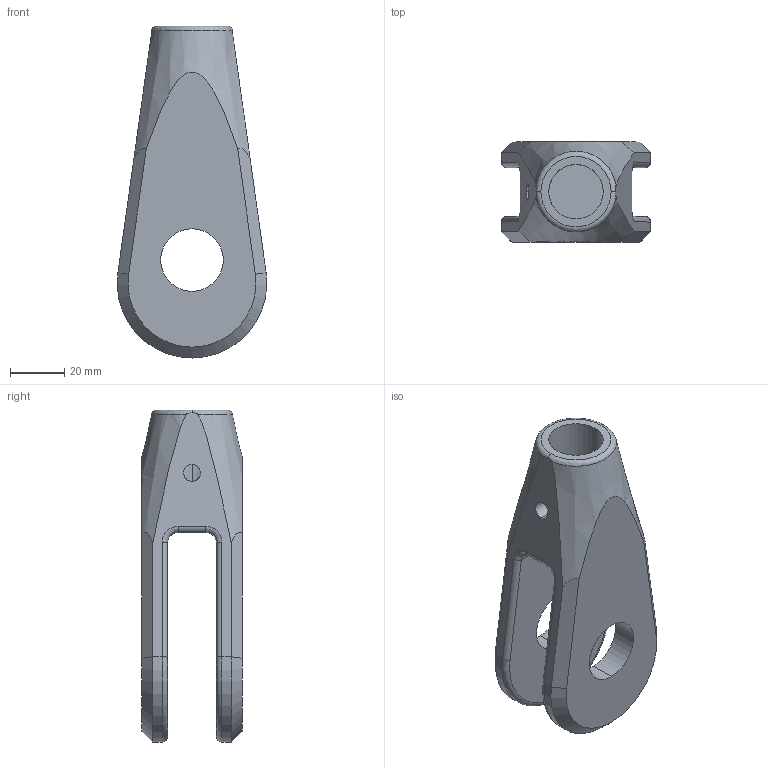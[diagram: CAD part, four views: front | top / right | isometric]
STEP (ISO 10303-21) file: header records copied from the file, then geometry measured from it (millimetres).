
FILE_DESCRIPTION (( 'STEP AP203' ), '1' );
FILE_NAME ('Gabelkopf M20.STEP', '2018-02-20T06:36:07', ( 'install' ), ( 'Hewlett-Packard Company' ), 'SwSTEP 2.0', 'SolidWorks 2017', '' );
FILE_SCHEMA (( 'CONFIG_CONTROL_DESIGN' ));
Length unit declared in the file: millimetre
Products named in the file (1): Gabelkopf M20
Bounding box: 54.97 x 36.8 x 122 mm (x, y, z)
Volume: 94231.2 mm3; surface area: 25687.8 mm2
Topology: 1 solids, 1 shells, 47 faces, 115 edges, 70 vertices
Faces by surface type: cylinder 20, plane 13, cone 5, torus 5, bspline 4
Entity records: 1859 total; most frequent: CARTESIAN_POINT 707, ORIENTED_EDGE 230, DIRECTION 222, EDGE_CURVE 115, AXIS2_PLACEMENT_3D 89, VERTEX_POINT 70, EDGE_LOOP 53, FACE_OUTER_BOUND 47
